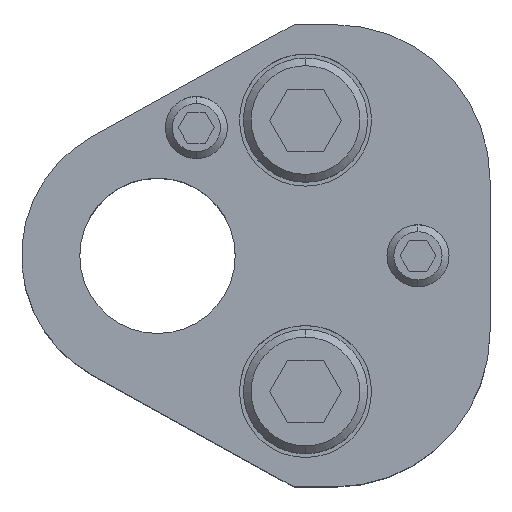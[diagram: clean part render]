
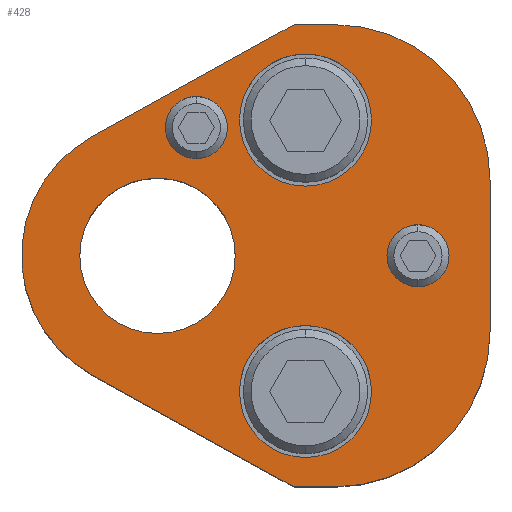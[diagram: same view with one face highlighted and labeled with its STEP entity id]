
A CAD part, top view. The second image highlights one B-rep face of the part: STEP entity #428.
In plain terms, the highlighted planar face has unit normal (0, 0, 1).
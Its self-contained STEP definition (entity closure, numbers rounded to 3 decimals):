
#198=FACE_BOUND('',#745,.T.);
#199=FACE_BOUND('',#746,.T.);
#200=FACE_BOUND('',#747,.T.);
#201=FACE_BOUND('',#748,.T.);
#202=FACE_BOUND('',#749,.T.);
#203=FACE_BOUND('',#750,.T.);
#276=CIRCLE('',#2330,20.);
#278=CIRCLE('',#2334,20.);
#281=CIRCLE('',#2340,17.5);
#282=CIRCLE('',#2342,4.);
#284=CIRCLE('',#2345,4.);
#286=CIRCLE('',#2348,4.);
#288=CIRCLE('',#2351,4.);
#298=CIRCLE('',#2366,8.5);
#299=CIRCLE('',#2367,8.5);
#300=CIRCLE('',#2368,8.5);
#301=CIRCLE('',#2369,8.5);
#302=CIRCLE('',#2370,10.);
#303=CIRCLE('',#2371,10.);
#428=ADVANCED_FACE('',(#198,#199,#200,#201,#202,#203),#522,.T.);
#522=PLANE('',#2372);
#745=EDGE_LOOP('',(#1129,#1130,#1131,#1132,#1133,#1134,#1135,#1136));
#746=EDGE_LOOP('',(#1137,#1138));
#747=EDGE_LOOP('',(#1139,#1140));
#748=EDGE_LOOP('',(#1141,#1142));
#749=EDGE_LOOP('',(#1143,#1144));
#750=EDGE_LOOP('',(#1145,#1146));
#1129=ORIENTED_EDGE('',*,*,#1724,.T.);
#1130=ORIENTED_EDGE('',*,*,#1728,.T.);
#1131=ORIENTED_EDGE('',*,*,#1731,.T.);
#1132=ORIENTED_EDGE('',*,*,#1734,.T.);
#1133=ORIENTED_EDGE('',*,*,#1737,.T.);
#1134=ORIENTED_EDGE('',*,*,#1740,.T.);
#1135=ORIENTED_EDGE('',*,*,#1743,.T.);
#1136=ORIENTED_EDGE('',*,*,#1746,.T.);
#1137=ORIENTED_EDGE('',*,*,#1771,.F.);
#1138=ORIENTED_EDGE('',*,*,#1772,.F.);
#1139=ORIENTED_EDGE('',*,*,#1773,.F.);
#1140=ORIENTED_EDGE('',*,*,#1774,.F.);
#1141=ORIENTED_EDGE('',*,*,#1757,.F.);
#1142=ORIENTED_EDGE('',*,*,#1753,.F.);
#1143=ORIENTED_EDGE('',*,*,#1751,.F.);
#1144=ORIENTED_EDGE('',*,*,#1747,.F.);
#1145=ORIENTED_EDGE('',*,*,#1775,.T.);
#1146=ORIENTED_EDGE('',*,*,#1776,.T.);
#1492=VERTEX_POINT('',#3476);
#1493=VERTEX_POINT('',#3478);
#1496=VERTEX_POINT('',#3485);
#1498=VERTEX_POINT('',#3491);
#1500=VERTEX_POINT('',#3497);
#1502=VERTEX_POINT('',#3503);
#1504=VERTEX_POINT('',#3509);
#1506=VERTEX_POINT('',#3515);
#1507=VERTEX_POINT('',#3523);
#1508=VERTEX_POINT('',#3524);
#1511=VERTEX_POINT('',#3535);
#1512=VERTEX_POINT('',#3536);
#1523=VERTEX_POINT('',#3571);
#1524=VERTEX_POINT('',#3572);
#1525=VERTEX_POINT('',#3575);
#1526=VERTEX_POINT('',#3576);
#1527=VERTEX_POINT('',#3579);
#1528=VERTEX_POINT('',#3580);
#1724=EDGE_CURVE('',#1493,#1492,#1968,.T.);
#1728=EDGE_CURVE('',#1492,#1496,#1972,.T.);
#1731=EDGE_CURVE('',#1496,#1498,#276,.T.);
#1734=EDGE_CURVE('',#1498,#1500,#1976,.T.);
#1737=EDGE_CURVE('',#1500,#1502,#278,.T.);
#1740=EDGE_CURVE('',#1502,#1504,#1980,.T.);
#1743=EDGE_CURVE('',#1504,#1506,#1983,.T.);
#1746=EDGE_CURVE('',#1506,#1493,#281,.T.);
#1747=EDGE_CURVE('',#1507,#1508,#282,.T.);
#1751=EDGE_CURVE('',#1508,#1507,#284,.T.);
#1753=EDGE_CURVE('',#1511,#1512,#286,.T.);
#1757=EDGE_CURVE('',#1512,#1511,#288,.T.);
#1771=EDGE_CURVE('',#1523,#1524,#298,.T.);
#1772=EDGE_CURVE('',#1524,#1523,#299,.T.);
#1773=EDGE_CURVE('',#1525,#1526,#300,.T.);
#1774=EDGE_CURVE('',#1526,#1525,#301,.T.);
#1775=EDGE_CURVE('',#1527,#1528,#302,.T.);
#1776=EDGE_CURVE('',#1528,#1527,#303,.T.);
#1968=LINE('',#3477,#2132);
#1972=LINE('',#3486,#2136);
#1976=LINE('',#3498,#2140);
#1980=LINE('',#3510,#2144);
#1983=LINE('',#3516,#2147);
#2132=VECTOR('',#2758,1.);
#2136=VECTOR('',#2764,1.);
#2140=VECTOR('',#2776,1.);
#2144=VECTOR('',#2788,1.);
#2147=VECTOR('',#2793,1.);
#2330=AXIS2_PLACEMENT_3D('',#3492,#2769,#2770);
#2334=AXIS2_PLACEMENT_3D('',#3504,#2781,#2782);
#2340=AXIS2_PLACEMENT_3D('',#3520,#2799,#2800);
#2342=AXIS2_PLACEMENT_3D('',#3522,#2803,#2804);
#2345=AXIS2_PLACEMENT_3D('',#3531,#2811,#2812);
#2348=AXIS2_PLACEMENT_3D('',#3534,#2817,#2818);
#2351=AXIS2_PLACEMENT_3D('',#3543,#2825,#2826);
#2366=AXIS2_PLACEMENT_3D('',#3570,#2859,#2860);
#2367=AXIS2_PLACEMENT_3D('',#3573,#2861,#2862);
#2368=AXIS2_PLACEMENT_3D('',#3574,#2863,#2864);
#2369=AXIS2_PLACEMENT_3D('',#3577,#2865,#2866);
#2370=AXIS2_PLACEMENT_3D('',#3578,#2867,#2868);
#2371=AXIS2_PLACEMENT_3D('',#3581,#2869,#2870);
#2372=AXIS2_PLACEMENT_3D('',#3582,#2871,#2872);
#2758=DIRECTION('',(0.875,-0.485,0.));
#2764=DIRECTION('',(1.,0.,0.));
#2769=DIRECTION('',(0.,0.,1.));
#2770=DIRECTION('',(-0.707,0.707,0.));
#2776=DIRECTION('',(0.,1.,0.));
#2781=DIRECTION('',(0.,0.,1.));
#2782=DIRECTION('',(-0.707,-0.707,0.));
#2788=DIRECTION('',(-1.,0.,0.));
#2793=DIRECTION('',(-0.875,-0.485,0.));
#2799=DIRECTION('',(0.,0.,1.));
#2800=DIRECTION('',(1.,0.,0.));
#2803=DIRECTION('',(0.,0.,1.));
#2804=DIRECTION('',(-1.,0.,0.));
#2811=DIRECTION('',(0.,0.,1.));
#2812=DIRECTION('',(1.,0.,0.));
#2817=DIRECTION('',(0.,0.,1.));
#2818=DIRECTION('',(-1.,0.,0.));
#2825=DIRECTION('',(0.,0.,1.));
#2826=DIRECTION('',(1.,0.,0.));
#2859=DIRECTION('',(0.,0.,1.));
#2860=DIRECTION('',(1.,0.,0.));
#2861=DIRECTION('',(0.,0.,1.));
#2862=DIRECTION('',(-1.,0.,0.));
#2863=DIRECTION('',(0.,0.,1.));
#2864=DIRECTION('',(1.,0.,0.));
#2865=DIRECTION('',(0.,0.,1.));
#2866=DIRECTION('',(-1.,0.,0.));
#2867=DIRECTION('',(0.,0.,-1.));
#2868=DIRECTION('',(-1.,0.,0.));
#2869=DIRECTION('',(0.,0.,-1.));
#2870=DIRECTION('',(1.,0.,0.));
#2871=DIRECTION('',(0.,0.,1.));
#2872=DIRECTION('',(-0.875,0.485,0.));
#3476=CARTESIAN_POINT('',(17.574,-29.75,32.));
#3477=CARTESIAN_POINT('',(17.574,-29.75,32.));
#3478=CARTESIAN_POINT('',(-8.484,-15.306,32.));
#3485=CARTESIAN_POINT('',(22.8,-29.75,32.));
#3486=CARTESIAN_POINT('',(17.574,-29.75,32.));
#3491=CARTESIAN_POINT('',(42.8,-9.75,32.));
#3492=CARTESIAN_POINT('',(22.8,-9.75,32.));
#3497=CARTESIAN_POINT('',(42.8,9.75,32.));
#3498=CARTESIAN_POINT('',(42.8,9.75,32.));
#3503=CARTESIAN_POINT('',(22.8,29.75,32.));
#3504=CARTESIAN_POINT('',(22.8,9.75,32.));
#3509=CARTESIAN_POINT('',(17.574,29.75,32.));
#3510=CARTESIAN_POINT('',(17.574,29.75,32.));
#3515=CARTESIAN_POINT('',(-8.484,15.306,32.));
#3516=CARTESIAN_POINT('',(17.574,29.75,32.));
#3520=CARTESIAN_POINT('',(0.,0.,32.));
#3522=CARTESIAN_POINT('',(5.,16.5,32.));
#3523=CARTESIAN_POINT('',(5.,12.5,32.));
#3524=CARTESIAN_POINT('',(5.,20.5,32.));
#3531=CARTESIAN_POINT('',(5.,16.5,32.));
#3534=CARTESIAN_POINT('',(33.53,0.,32.));
#3535=CARTESIAN_POINT('',(33.53,-4.,32.));
#3536=CARTESIAN_POINT('',(33.53,4.,32.));
#3543=CARTESIAN_POINT('',(33.53,0.,32.));
#3570=CARTESIAN_POINT('',(19.05,17.47,32.));
#3571=CARTESIAN_POINT('',(19.05,25.97,32.));
#3572=CARTESIAN_POINT('',(19.05,8.97,32.));
#3573=CARTESIAN_POINT('',(19.05,17.47,32.));
#3574=CARTESIAN_POINT('',(19.05,-17.47,32.));
#3575=CARTESIAN_POINT('',(19.05,-8.97,32.));
#3576=CARTESIAN_POINT('',(19.05,-25.97,32.));
#3577=CARTESIAN_POINT('',(19.05,-17.47,32.));
#3578=CARTESIAN_POINT('',(0.,0.,32.));
#3579=CARTESIAN_POINT('',(0.,10.,32.));
#3580=CARTESIAN_POINT('',(0.,-10.,32.));
#3581=CARTESIAN_POINT('',(0.,0.,32.));
#3582=CARTESIAN_POINT('',(-8.484,-15.306,32.));
